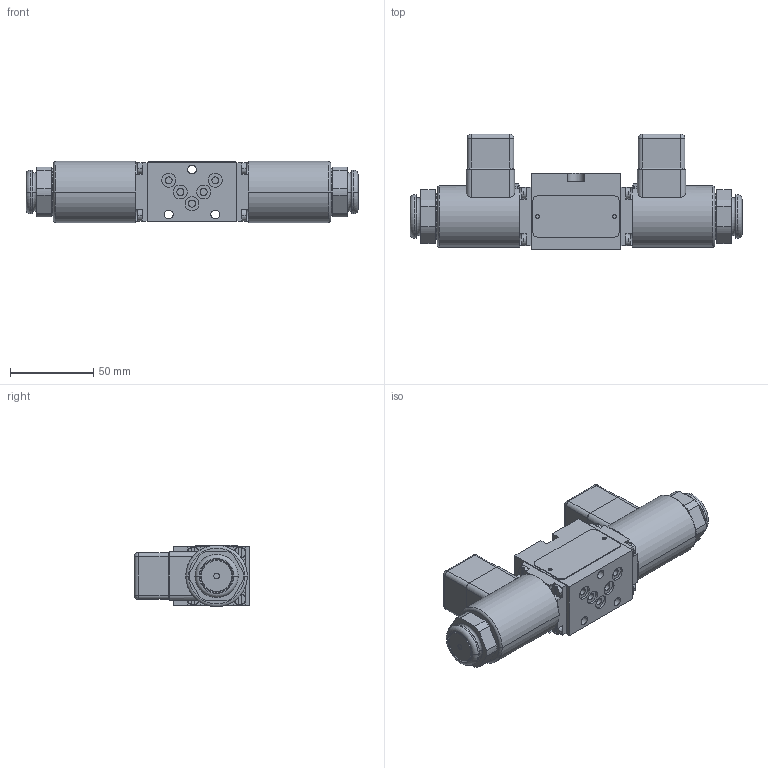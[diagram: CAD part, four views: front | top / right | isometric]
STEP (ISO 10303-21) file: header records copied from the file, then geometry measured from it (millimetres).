
FILE_DESCRIPTION((''),'2;1');
FILE_NAME('RPE2-043-2_ASM','2019-08-21T',('j.koudelka'),(''),'PRO/ENGINEER BY PARAMETRIC TECHNOLOGY CORPORATION, 2015440','PRO/ENGINEER BY PARAMETRIC TECHNOLOGY CORPORATION, 2015440','');
FILE_SCHEMA(('AUTOMOTIVE_DESIGN { 1 0 10303 214 1 1 1 1 }'));
Length unit declared in the file: millimetre
Products named in the file (6): RPE2-043-2; 32246100; C19B_E1; RD_LABEL_25X52_159703; ISO_1207_M4X12_202229; RPE2-043-2_ASM
Assembly tree (14 placements, depth 2):
  RPE2-043-2_ASM
    RPE2-043-2
    32246100  x2
    C19B_E1  x2
    RD_LABEL_25X52_159703
    ISO_1207_M4X12_202229  x8
Bounding box: 199.4 x 69.5 x 37 mm (x, y, z)
Volume: 270373.1 mm3; surface area: 66425.6 mm2
Topology: 14 solids, 26 shells, 443 faces, 1191 edges, 902 vertices
Faces by surface type: plane 190, cylinder 189, cone 40, torus 16, sphere 8
Entity records: 12756 total; most frequent: DIRECTION 1581, CARTESIAN_POINT 1572, ORIENTED_EDGE 1162, PRESENTATION_STYLE_ASSIGNMENT 893, STYLED_ITEM 761, CURVE_STYLE 739, EDGE_CURVE 585, AXIS2_PLACEMENT_3D 579
